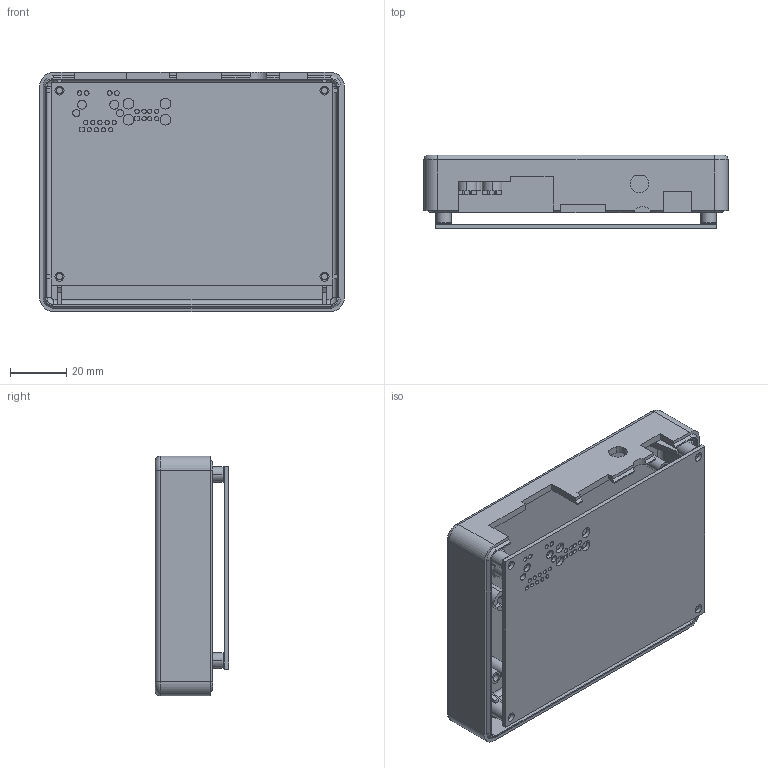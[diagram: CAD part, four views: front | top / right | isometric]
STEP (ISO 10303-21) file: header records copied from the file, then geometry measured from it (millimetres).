
FILE_DESCRIPTION((''),'2;1');
FILE_NAME('64001220_COVER_CC6_SBC','2016-05-25T',('mlarsen'),(''),'PRO/ENGINEER BY PARAMETRIC TECHNOLOGY CORPORATION, 2015200','PRO/ENGINEER BY PARAMETRIC TECHNOLOGY CORPORATION, 2015200','');
FILE_SCHEMA(('CONFIG_CONTROL_DESIGN'));
Length unit declared in the file: millimetre
Products named in the file (1): 64001220_COVER_CC6_SBC
Bounding box: 108 x 26 x 85 mm (x, y, z)
Volume: 41411.9 mm3; surface area: 50226.5 mm2
Topology: 1 solids, 2 shells, 294 faces, 816 edges, 536 vertices
Faces by surface type: plane 144, cylinder 134, torus 8, cone 4, bspline 4
Entity records: 9756 total; most frequent: CARTESIAN_POINT 1727, DIRECTION 1724, ORIENTED_EDGE 1632, EDGE_CURVE 816, AXIS2_PLACEMENT_3D 623, VERTEX_POINT 536, VECTOR 478, LINE 478
